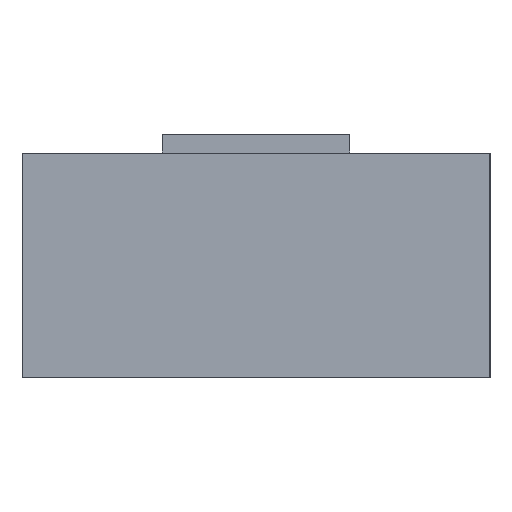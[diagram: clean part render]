
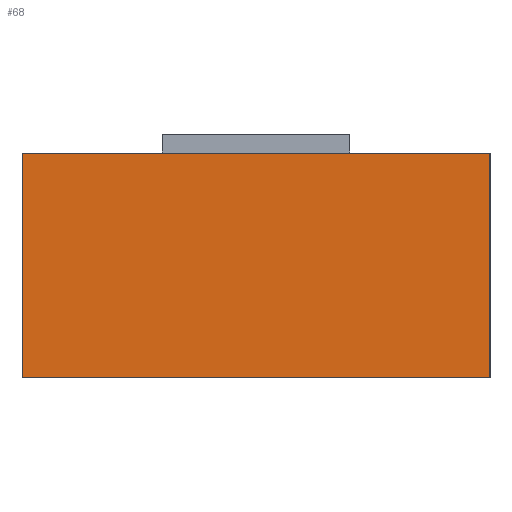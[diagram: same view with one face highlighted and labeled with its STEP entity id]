
A CAD part, left-side view. The second image highlights one B-rep face of the part: STEP entity #68.
In plain terms, the highlighted planar face has unit normal (-1, 0, 0).
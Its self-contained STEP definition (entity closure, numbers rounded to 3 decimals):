
#68=ADVANCED_FACE('',(#229),#231,.T.);
#229=FACE_BOUND('',#230,.T.);
#230=EDGE_LOOP('',(#531,#532,#533,#534,#535,#536));
#231=PLANE('',#232);
#232=AXIS2_PLACEMENT_3D('',#233,#234,#235);
#233=CARTESIAN_POINT('',(-2.5,1.25,0.));
#234=DIRECTION('',(-1.,0.,0.));
#235=DIRECTION('',(0.,-1.,0.));
#531=ORIENTED_EDGE('',*,*,#756,.F.);
#532=ORIENTED_EDGE('',*,*,#755,.F.);
#533=ORIENTED_EDGE('',*,*,#757,.F.);
#534=ORIENTED_EDGE('',*,*,#758,.T.);
#535=ORIENTED_EDGE('',*,*,#759,.T.);
#536=ORIENTED_EDGE('',*,*,#747,.F.);
#747=EDGE_CURVE('',#895,#897,#898,.T.);
#755=EDGE_CURVE('',#911,#891,#913,.T.);
#756=EDGE_CURVE('',#891,#895,#914,.F.);
#757=EDGE_CURVE('',#915,#911,#916,.T.);
#758=EDGE_CURVE('',#915,#917,#918,.T.);
#759=EDGE_CURVE('',#917,#897,#919,.T.);
#891=VERTEX_POINT('',#1014);
#895=VERTEX_POINT('',#1022);
#897=VERTEX_POINT('',#1026);
#898=LINE('',#1027,#1028);
#911=VERTEX_POINT('',#1054);
#913=LINE('',#1058,#1059);
#914=LINE('',#1061,#1062);
#915=VERTEX_POINT('',#1064);
#916=LINE('',#1065,#1066);
#917=VERTEX_POINT('',#1068);
#918=LINE('',#1069,#1070);
#919=LINE('',#1072,#1073);
#1014=CARTESIAN_POINT('',(-2.5,0.5,1.2));
#1022=CARTESIAN_POINT('',(-2.5,-0.5,1.2));
#1026=CARTESIAN_POINT('',(-2.5,-1.25,1.2));
#1027=CARTESIAN_POINT('',(-2.5,-0.5,1.2));
#1028=VECTOR('',#1029,1.);
#1029=DIRECTION('',(0.,-1.,0.));
#1054=CARTESIAN_POINT('',(-2.5,1.25,1.2));
#1058=CARTESIAN_POINT('',(-2.5,1.25,1.2));
#1059=VECTOR('',#1060,1.);
#1060=DIRECTION('',(0.,-1.,0.));
#1061=CARTESIAN_POINT('',(-2.5,-0.5,1.2));
#1062=VECTOR('',#1063,1.);
#1063=DIRECTION('',(0.,1.,0.));
#1064=CARTESIAN_POINT('',(-2.5,1.25,0.));
#1065=CARTESIAN_POINT('',(-2.5,1.25,0.));
#1066=VECTOR('',#1067,1.);
#1067=DIRECTION('',(0.,0.,1.));
#1068=CARTESIAN_POINT('',(-2.5,-1.25,0.));
#1069=CARTESIAN_POINT('',(-2.5,1.25,0.));
#1070=VECTOR('',#1071,1.);
#1071=DIRECTION('',(0.,-1.,0.));
#1072=CARTESIAN_POINT('',(-2.5,-1.25,0.));
#1073=VECTOR('',#1074,1.);
#1074=DIRECTION('',(0.,0.,1.));
